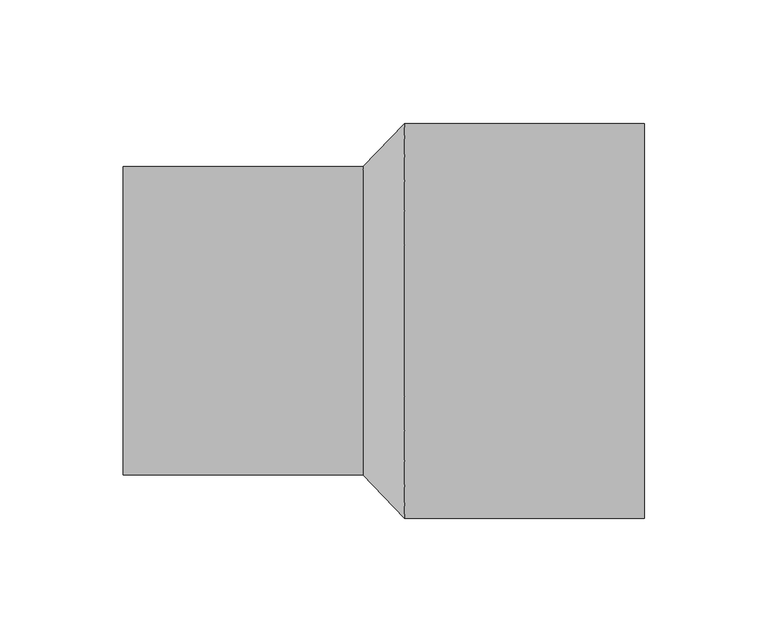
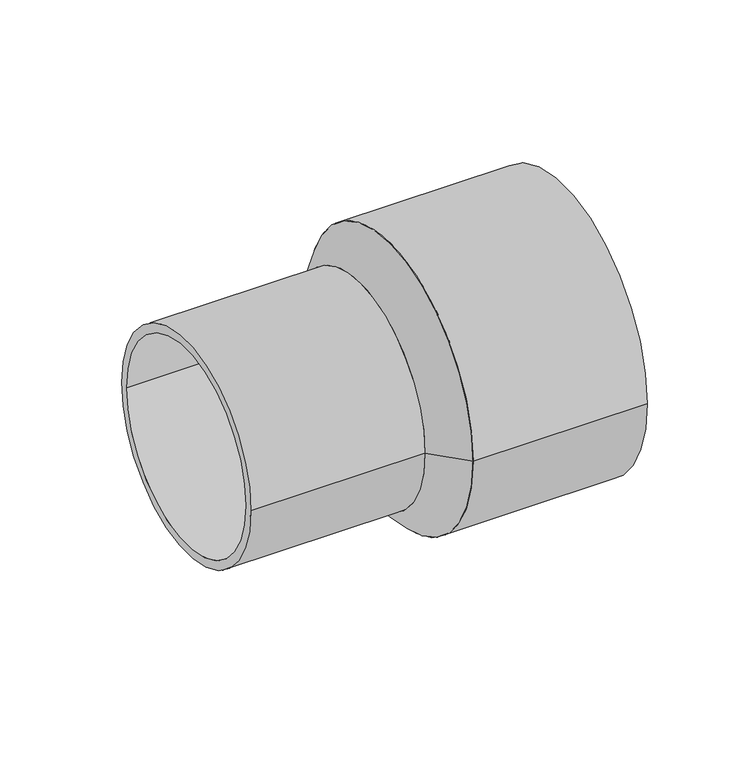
"""IFC4 building model written with IfcOpenShell, lengths in millimetres: pipe fitting geometry, EGB_VASEN_ PPR_Manguito reductor a tope WXRB110 : Manguito reductor a tope WXRB110."""

from ifc_helpers import new_model, si_unit, point, frame, origin, origin_2d, place, context, project, spatial, polyline, circle_curve, trimmed, segment, composite_curve, outline, extrude, source, transform, mapped, element, save
from ifc_brep_helpers import plane_surface, revolved_surface, advanced_brep


def pipe_fitting_86fb707b(model_context):
    return source(origin(), model_context, "Body", "SolidModel", [
        extrude(outline(composite_curve([segment(trimmed(circle_curve(origin_2d(), 80.0), [point((-80.0, 0.0))], [point((80.0, 0.0))], False, "CARTESIAN"), True, "CONTINUOUS"), segment(trimmed(circle_curve(origin_2d(), 80.0), [point((80.0, 0.0))], [point((-80.0, 0.0))], False, "CARTESIAN"), True, "CONTINUOUS")], self_intersect=False), holes=[composite_curve([segment(trimmed(circle_curve(origin_2d(), 75.0), [point((-75.0, 0.0))], [point((75.0, 0.0))], True, "CARTESIAN"), True, "CONTINUOUS"), segment(trimmed(circle_curve(origin_2d(), 75.0), [point((75.0, 0.0))], [point((-75.0, 0.0))], True, "CARTESIAN"), True, "CONTINUOUS")], self_intersect=False)]), frame((8.44, 0.0, 0.0), z_axis=(1.0, 0.0, 0.0), x_axis=(0.0, 1.0, 0.0)), (0.0, 0.0, 1.0), 97.06),
        extrude(outline(composite_curve([segment(trimmed(circle_curve(origin_2d(), 62.5), [point((-62.5, 0.0))], [point((62.5, 0.0))], False, "CARTESIAN"), True, "CONTINUOUS"), segment(trimmed(circle_curve(origin_2d(), 62.5), [point((62.5, 0.0))], [point((-62.5, 0.0))], False, "CARTESIAN"), True, "CONTINUOUS")], self_intersect=False), holes=[composite_curve([segment(trimmed(circle_curve(origin_2d(), 57.5), [point((-57.5, 0.0))], [point((57.5, 0.0))], True, "CARTESIAN"), True, "CONTINUOUS"), segment(trimmed(circle_curve(origin_2d(), 57.5), [point((57.5, 0.0))], [point((-57.5, 0.0))], True, "CARTESIAN"), True, "CONTINUOUS")], self_intersect=False)]), frame((-105.5, 0.0, 0.0), z_axis=(1.0, 0.0, 0.0), x_axis=(0.0, 1.0, 0.0)), (0.0, 0.0, 1.0), 97.06),
        advanced_brep(
        [(8.44, -80.0, 0.0), (8.44, 80.0, 0.0), (-8.44, -62.5, 0.0), (-8.44, 62.5, 0.0)],
        [
            (0, 1, circle_curve(frame((8.44, 0.0, 0.0), z_axis=(1.0, 0.0, 0.0), x_axis=(0.0, -1.0, 0.0)), 80.0)),
            (1, 0, circle_curve(frame((8.44, 0.0, 0.0), z_axis=(1.0, 0.0, 0.0), x_axis=(0.0, 1.0, 0.0)), 80.0)),
            (2, 3, circle_curve(frame((-8.44, 0.0, 0.0), z_axis=(-1.0, 0.0, 0.0), x_axis=(0.0, 1.0, 0.0)), 62.5)),
            (3, 2, circle_curve(frame((-8.44, 0.0, 0.0), z_axis=(-1.0, 0.0, 0.0), x_axis=(0.0, -1.0, 0.0)), 62.5)),
            (3, 1),
            (0, 2),
        ],
        [
            plane_surface(frame((8.44, 0.0, 0.0), z_axis=(1.0, 0.0, 0.0), x_axis=(0.0, 0.0, -1.0))),
            plane_surface(frame((-8.44, 0.0, 0.0), z_axis=(-1.0, 0.0, 0.0), x_axis=(0.0, 0.0, -1.0))),
            revolved_surface(polyline([(-8.43999999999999, 62.50000000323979, 0.0), (8.439999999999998, 80.0, 0.0)]), (-68.7257143, 0.0, 0.0), (1.0, 0.0, 0.0)),
            revolved_surface(polyline([(-8.43999999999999, -62.50000000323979, 0.0), (8.439999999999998, -80.0, 0.0)]), (-68.7257143, 0.0, 0.0), (1.0, 0.0, 0.0)),
        ],
        [
            (0, [[1, 2]]),
            (1, [[3, 4]]),
            (2, [[-4, 5, -1, 6]]),
            (3, [[-3, -6, -2, -5]]),
        ],
    ),
    ])


if __name__ == "__main__":
    model = new_model("IFC4")
    model_context = context("Model", 3, world=origin())
    ifc_project = project(units=[si_unit("LENGTHUNIT", "METRE", prefix="MILLI")], contexts=[model_context])
    site = spatial("IfcSite", under=ifc_project)
    building = spatial("IfcBuilding", under=site)
    placement = place(None, origin())
    pipe_fitting_shape = pipe_fitting_86fb707b(model_context)
    element("IfcPipeFitting", 1, ObjectType="EGB_VASEN_ PPR_Manguito reductor a tope WXRB110 : Manguito reductor a tope WXRB110", at=placement, inside=building, context=model_context, shape_type="MappedRepresentation", body=[
        mapped(pipe_fitting_shape, transform((0.0, 0.0, 0.0), x_axis=(1.0, 0.0, 0.0), y_axis=(0.0, 1.0, 0.0), z_axis=(0.0, 0.0, 1.0))),
    ])
    save(model, "model.ifc")
